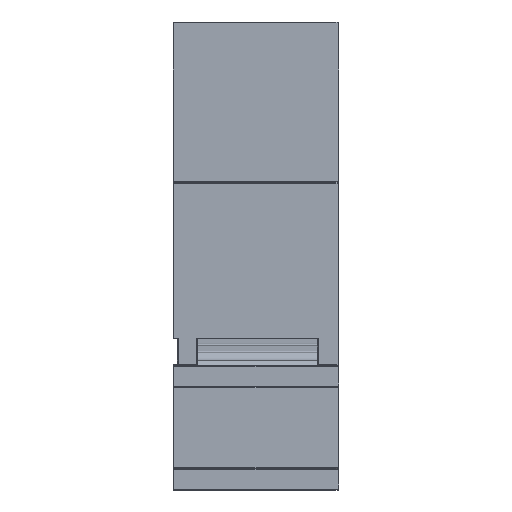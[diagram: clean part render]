
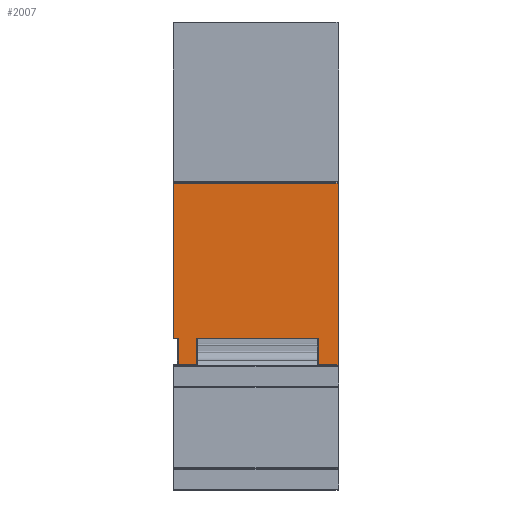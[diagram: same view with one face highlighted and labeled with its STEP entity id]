
A CAD part, left-side view. The second image highlights one B-rep face of the part: STEP entity #2007.
In plain terms, the highlighted planar face has unit normal (-1, 0, 0).
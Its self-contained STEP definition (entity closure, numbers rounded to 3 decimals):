
#2007 = ADVANCED_FACE( '', ( #5527 ), #5528, .F. );
#5527 = FACE_OUTER_BOUND( '', #10913, .T. );
#5528 = PLANE( '', #10914 );
#10913 = EDGE_LOOP( '', ( #16732, #16733, #16734, #16735, #16736, #16737, #16738, #16739, #16740, #16741 ) );
#10914 = AXIS2_PLACEMENT_3D( '', #16742, #16743, #16744 );
#16732 = ORIENTED_EDGE( '', *, *, #34405, .T. );
#16733 = ORIENTED_EDGE( '', *, *, #34406, .T. );
#16734 = ORIENTED_EDGE( '', *, *, #34407, .F. );
#16735 = ORIENTED_EDGE( '', *, *, #34408, .T. );
#16736 = ORIENTED_EDGE( '', *, *, #34409, .T. );
#16737 = ORIENTED_EDGE( '', *, *, #34410, .T. );
#16738 = ORIENTED_EDGE( '', *, *, #34411, .T. );
#16739 = ORIENTED_EDGE( '', *, *, #34412, .T. );
#16740 = ORIENTED_EDGE( '', *, *, #34413, .F. );
#16741 = ORIENTED_EDGE( '', *, *, #34414, .T. );
#16742 = CARTESIAN_POINT( '', ( -475., -620., 1149. ) );
#16743 = DIRECTION( '', ( 1., 0., 0. ) );
#16744 = DIRECTION( '', ( 0., 0., -1. ) );
#34405 = EDGE_CURVE( '', #40776, #40777, #40778, .T. );
#34406 = EDGE_CURVE( '', #40777, #40779, #40780, .T. );
#34407 = EDGE_CURVE( '', #40781, #40779, #40782, .T. );
#34408 = EDGE_CURVE( '', #40781, #40783, #40784, .T. );
#34409 = EDGE_CURVE( '', #40783, #40785, #40786, .T. );
#34410 = EDGE_CURVE( '', #40785, #40787, #40788, .T. );
#34411 = EDGE_CURVE( '', #40787, #40789, #40790, .T. );
#34412 = EDGE_CURVE( '', #40789, #40791, #40792, .T. );
#34413 = EDGE_CURVE( '', #40793, #40791, #40794, .T. );
#34414 = EDGE_CURVE( '', #40793, #40776, #40795, .T. );
#40776 = VERTEX_POINT( '', #50059 );
#40777 = VERTEX_POINT( '', #50060 );
#40778 = LINE( '', #50061, #50062 );
#40779 = VERTEX_POINT( '', #50063 );
#40780 = LINE( '', #50064, #50065 );
#40781 = VERTEX_POINT( '', #50066 );
#40782 = LINE( '', #50067, #50068 );
#40783 = VERTEX_POINT( '', #50069 );
#40784 = LINE( '', #50070, #50071 );
#40785 = VERTEX_POINT( '', #50072 );
#40786 = LINE( '', #50073, #50074 );
#40787 = VERTEX_POINT( '', #50075 );
#40788 = LINE( '', #50076, #50077 );
#40789 = VERTEX_POINT( '', #50078 );
#40790 = LINE( '', #50079, #50080 );
#40791 = VERTEX_POINT( '', #50081 );
#40792 = LINE( '', #50082, #50083 );
#40793 = VERTEX_POINT( '', #50084 );
#40794 = LINE( '', #50085, #50086 );
#40795 = LINE( '', #50087, #50088 );
#50059 = CARTESIAN_POINT( '', ( -475., -87., 569. ) );
#50060 = CARTESIAN_POINT( '', ( -475., -543.183, 569. ) );
#50061 = CARTESIAN_POINT( '', ( -475., -90., 569. ) );
#50062 = VECTOR( '', #68150, 1000. );
#50063 = CARTESIAN_POINT( '', ( -475., -543.183, 469. ) );
#50064 = CARTESIAN_POINT( '', ( -475., -543.183, 1149. ) );
#50065 = VECTOR( '', #68151, 1000. );
#50066 = CARTESIAN_POINT( '', ( -475., -617., 469. ) );
#50067 = CARTESIAN_POINT( '', ( -475., -620., 469. ) );
#50068 = VECTOR( '', #68152, 1000. );
#50069 = CARTESIAN_POINT( '', ( -475., -617., 1149. ) );
#50070 = CARTESIAN_POINT( '', ( -475., -617., 0. ) );
#50071 = VECTOR( '', #68153, 1000. );
#50072 = CARTESIAN_POINT( '', ( -475., 0., 1149. ) );
#50073 = CARTESIAN_POINT( '', ( -475., -620., 1149. ) );
#50074 = VECTOR( '', #68154, 1000. );
#50075 = CARTESIAN_POINT( '', ( -475., 0., 567.544 ) );
#50076 = CARTESIAN_POINT( '', ( -475., 0., 1149. ) );
#50077 = VECTOR( '', #68155, 1000. );
#50078 = CARTESIAN_POINT( '', ( -475., -18., 567.544 ) );
#50079 = CARTESIAN_POINT( '', ( -475., -620., 567.544 ) );
#50080 = VECTOR( '', #68156, 1000. );
#50081 = CARTESIAN_POINT( '', ( -475., -18., 469. ) );
#50082 = CARTESIAN_POINT( '', ( -475., -18., 469. ) );
#50083 = VECTOR( '', #68157, 1000. );
#50084 = CARTESIAN_POINT( '', ( -475., -87., 469. ) );
#50085 = CARTESIAN_POINT( '', ( -475., -620., 469. ) );
#50086 = VECTOR( '', #68158, 1000. );
#50087 = CARTESIAN_POINT( '', ( -475., -87., 569. ) );
#50088 = VECTOR( '', #68159, 1000. );
#68150 = DIRECTION( '', ( 0., -1., 0. ) );
#68151 = DIRECTION( '', ( 0., 0., -1. ) );
#68152 = DIRECTION( '', ( 0., 1., 0. ) );
#68153 = DIRECTION( '', ( 0., 0., 1. ) );
#68154 = DIRECTION( '', ( 0., 1., 0. ) );
#68155 = DIRECTION( '', ( 0., 0., -1. ) );
#68156 = DIRECTION( '', ( 0., -1., 0. ) );
#68157 = DIRECTION( '', ( 0., 0., -1. ) );
#68158 = DIRECTION( '', ( 0., 1., 0. ) );
#68159 = DIRECTION( '', ( 0., 0., 1. ) );
